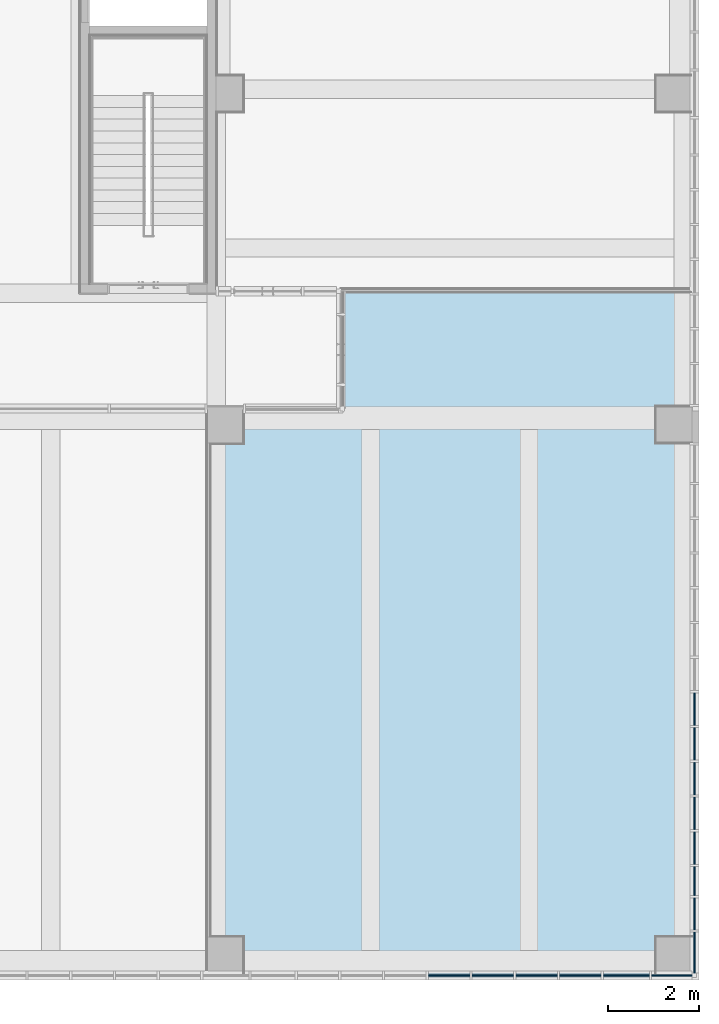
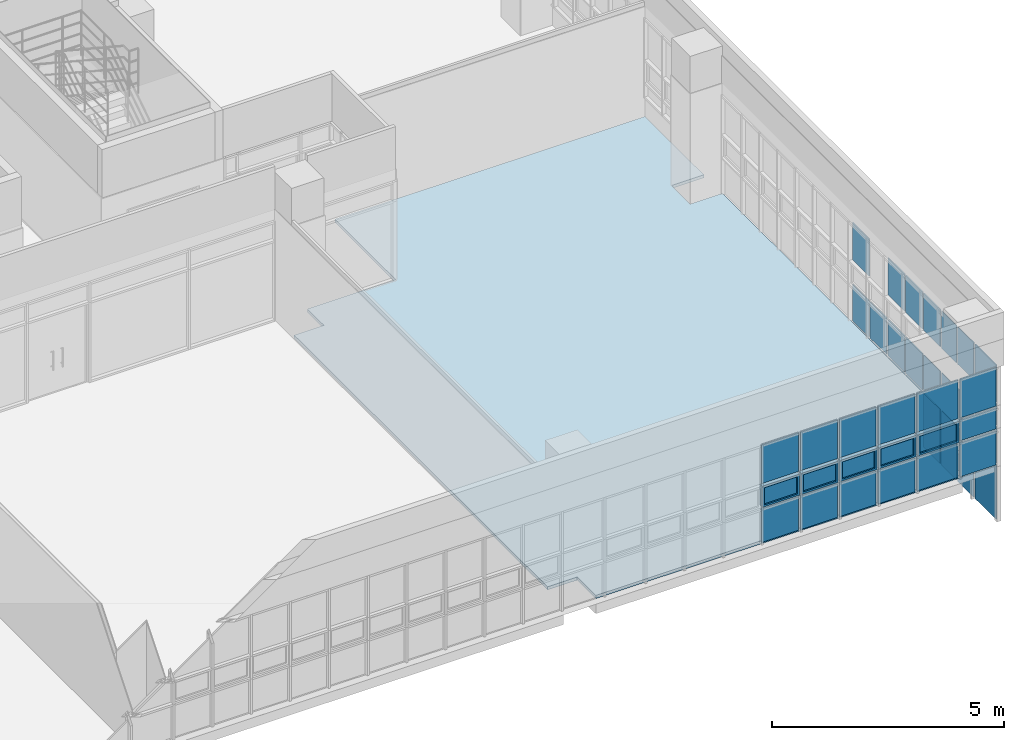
# One storey, part 31 of 81: 42 plates, 1 slab, 2 elements without a shape of their own.
"""IFC2X3 building model written with IfcOpenShell, lengths in millimetres."""

from ifc_helpers import new_model, entity, si_unit, converted_unit, derived_unit, direction, frame, origin, origin_2d_with_axis, place, context, subcontext, project, spatial, polyline, rectangle, outline, extrude, source, transform, mapped, material, material_list, layer, layer_set, layer_usage, type_object, type_shapes, element, aggregate, save


model = new_model("IFC2X3")

# Units and contexts
model_context = context("Model", 3, precision=0.01, world=origin(), true_north=direction((6.123031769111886e-17, 1.0)))
body_context = subcontext(model_context, "Body", "Model", "MODEL_VIEW")
ifc_project = project(units=[si_unit("LENGTHUNIT", "METRE", prefix="MILLI"), si_unit("AREAUNIT", "SQUARE_METRE"), si_unit("VOLUMEUNIT", "CUBIC_METRE"), converted_unit("PLANEANGLEUNIT", "DEGREE", entity("IfcRatioMeasure", 0.017453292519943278), si_unit("PLANEANGLEUNIT", "RADIAN"), dimensions=[0, 0, 0, 0, 0, 0, 0]), si_unit("MASSUNIT", "GRAM", prefix="KILO"), derived_unit("MASSDENSITYUNIT", [(si_unit("MASSUNIT", "GRAM", prefix="KILO"), 1), (si_unit("LENGTHUNIT", "METRE"), -3)]), derived_unit("MOMENTOFINERTIAUNIT", [(si_unit("LENGTHUNIT", "METRE"), 4)]), si_unit("TIMEUNIT", "SECOND"), si_unit("FREQUENCYUNIT", "HERTZ"), si_unit("THERMODYNAMICTEMPERATUREUNIT", "DEGREE_CELSIUS"), derived_unit("THERMALTRANSMITTANCEUNIT", [(si_unit("MASSUNIT", "GRAM", prefix="KILO"), 1), (si_unit("THERMODYNAMICTEMPERATUREUNIT", "KELVIN"), -1), (si_unit("TIMEUNIT", "SECOND"), -3)]), derived_unit("VOLUMETRICFLOWRATEUNIT", [(si_unit("LENGTHUNIT", "METRE"), 3), (si_unit("TIMEUNIT", "SECOND"), -1)]), derived_unit("MASSFLOWRATEUNIT", [(si_unit("MASSUNIT", "GRAM", prefix="KILO"), 1), (si_unit("TIMEUNIT", "SECOND"), -1)]), derived_unit("ROTATIONALFREQUENCYUNIT", [(si_unit("TIMEUNIT", "SECOND"), -1)]), si_unit("ELECTRICCURRENTUNIT", "AMPERE"), si_unit("ELECTRICVOLTAGEUNIT", "VOLT"), si_unit("POWERUNIT", "WATT"), si_unit("FORCEUNIT", "NEWTON", prefix="KILO"), si_unit("ILLUMINANCEUNIT", "LUX"), si_unit("LUMINOUSFLUXUNIT", "LUMEN"), si_unit("LUMINOUSINTENSITYUNIT", "CANDELA"), derived_unit("USERDEFINED", [(si_unit("MASSUNIT", "GRAM", prefix="KILO"), -1), (si_unit("LENGTHUNIT", "METRE"), -2), (si_unit("TIMEUNIT", "SECOND"), 3), (si_unit("LUMINOUSFLUXUNIT", "LUMEN"), 1)]), derived_unit("SOUNDPOWERUNIT", [(si_unit("MASSUNIT", "GRAM", prefix="KILO"), 1), (si_unit("LENGTHUNIT", "METRE"), 2), (si_unit("TIMEUNIT", "SECOND"), -3)]), derived_unit("SOUNDPRESSUREUNIT", [(si_unit("MASSUNIT", "GRAM", prefix="KILO"), 1), (si_unit("LENGTHUNIT", "METRE"), -1), (si_unit("TIMEUNIT", "SECOND"), -2)]), derived_unit("LINEARVELOCITYUNIT", [(si_unit("LENGTHUNIT", "METRE"), 1), (si_unit("TIMEUNIT", "SECOND"), -1)]), si_unit("PRESSUREUNIT", "PASCAL"), derived_unit("USERDEFINED", [(si_unit("LENGTHUNIT", "METRE"), -2), (si_unit("MASSUNIT", "GRAM", prefix="KILO"), 1), (si_unit("TIMEUNIT", "SECOND"), -2)]), derived_unit("LINEARFORCEUNIT", [(si_unit("MASSUNIT", "GRAM", prefix="KILO"), 1), (si_unit("LENGTHUNIT", "METRE"), 1), (si_unit("TIMEUNIT", "SECOND"), -2), (si_unit("LENGTHUNIT", "METRE"), -1)]), derived_unit("PLANARFORCEUNIT", [(si_unit("MASSUNIT", "GRAM", prefix="KILO"), 1), (si_unit("LENGTHUNIT", "METRE"), 1), (si_unit("TIMEUNIT", "SECOND"), -2), (si_unit("LENGTHUNIT", "METRE"), -2)])], contexts=[model_context])

# Site, building, storey
site_placement = place(None, frame((-14167.972527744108, -657.2125860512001, 0.0)))
site = spatial("IfcSite", under=ifc_project, at=site_placement, Name="Default", CompositionType="ELEMENT")
building_placement = place(site_placement, origin())
building = spatial("IfcBuilding", under=site, at=building_placement, Name="Sample Building", CompositionType="ELEMENT")
storey_placement = place(building_placement, frame((0.0, 0.0, 13400.0)))
storey = spatial("IfcBuildingStorey", under=building, at=storey_placement, Name="지상 4층", CompositionType="ELEMENT", Elevation=13400.00000000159)

# Curtain wall, plates
curtain_wall_type = type_object("IfcCurtainWallType", Name="커튼월:CW112-스테인리스 스틸 커튼월", PredefinedType="NOTDEFINED")
curtain_wall_1_placement = place(storey_placement, frame((0.0, 0.0, -13400.0)))
curtain_wall_1 = element("IfcCurtainWall", 1, at=curtain_wall_1_placement, inside=storey, type_object=curtain_wall_type, Name="커튼월:CW112-스테인리스 스틸 커튼월", ObjectType="커튼월:CW112-스테인리스 스틸 커튼월")
ifc_material_1 = material(Name="KBIMS-유리")
ifc_material_2 = material(Name="KBIMS-알루미늄")
ifc_material_list_1 = material_list([ifc_material_1, ifc_material_2])
ifc_material_list_2 = material_list([ifc_material_1, ifc_material_2])
plate_type_1 = type_object("IfcPlateType", Name="CW410-프로젝트 창:CW410-프로젝트 창 (하부개폐)", PredefinedType="CURTAIN_PANEL", material=ifc_material_list_2)
shared_shape_1 = source(origin(), body_context, "Body", "SweptSolid", [
    extrude(rectangle(XDim=815.0000000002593, YDim=23.999999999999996, at=origin_2d_with_axis()), frame((0.0, -0.04999999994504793, 50.0), z_axis=(0.0, 0.0, 1.0), x_axis=(-1.0, 0.0, 0.0)), (0.0, 0.0, 1.0), 450.0000000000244),
    extrude(outline(polyline([(-457.4999999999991, -275.0), (457.4999999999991, -275.0), (457.4999999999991, 275.0), (-457.4999999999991, 275.0), (-457.4999999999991, -275.0)]), holes=[polyline([(-407.50000000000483, -225.0), (-407.5000000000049, 225.0), (407.50000000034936, 225.0), (407.50000000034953, -225.0), (-407.50000000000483, -225.0)])]), frame((0.0, -50.04999999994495, 275.0), z_axis=(0.0, 1.0, 0.0), x_axis=(1.0, 0.0, 0.0)), (0.0, 0.0, 1.0), 99.99999999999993),
])
type_shapes(plate_type_1, [shared_shape_1])
plate_1_placement = place(curtain_wall_1_placement, frame((46107.65607007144, 507.2122951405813, 14425.0)))
plate_1 = element("IfcPlate", 2, at=plate_1_placement, type_object=plate_type_1, material=ifc_material_list_1, Name="CW410-프로젝트 창:CW410-프로젝트 창 (하부개폐)", ObjectType="CW410-프로젝트 창:CW410-프로젝트 창 (하부개폐)", context=body_context, shape_type="MappedRepresentation", body=[
    mapped(shared_shape_1, transform((0.0, 0.0, 0.0), scale=1.0)),
])
ifc_material_list_3 = material_list([ifc_material_1, ifc_material_2])
plate_2_placement = place(curtain_wall_1_placement, frame((47072.65607007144, 507.2122951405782, 14425.0)))
plate_2 = element("IfcPlate", 3, at=plate_2_placement, type_object=plate_type_1, material=ifc_material_list_3, Name="CW410-프로젝트 창:CW410-프로젝트 창 (하부개폐)", ObjectType="CW410-프로젝트 창:CW410-프로젝트 창 (하부개폐)", context=body_context, shape_type="MappedRepresentation", body=[
    mapped(shared_shape_1, transform((0.0, 0.0, 0.0), scale=1.0)),
])
ifc_material_list_4 = material_list([ifc_material_1, ifc_material_2])
plate_3_placement = place(curtain_wall_1_placement, frame((48037.65607007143, 507.21229514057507, 14425.0)))
plate_3 = element("IfcPlate", 4, at=plate_3_placement, type_object=plate_type_1, material=ifc_material_list_4, Name="CW410-프로젝트 창:CW410-프로젝트 창 (하부개폐)", ObjectType="CW410-프로젝트 창:CW410-프로젝트 창 (하부개폐)", context=body_context, shape_type="MappedRepresentation", body=[
    mapped(shared_shape_1, transform((0.0, 0.0, 0.0), scale=1.0)),
])
ifc_material_list_5 = material_list([ifc_material_1, ifc_material_2])
plate_4_placement = place(curtain_wall_1_placement, frame((49002.65607007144, 507.21229514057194, 14425.0)))
plate_4 = element("IfcPlate", 5, at=plate_4_placement, type_object=plate_type_1, material=ifc_material_list_5, Name="CW410-프로젝트 창:CW410-프로젝트 창 (하부개폐)", ObjectType="CW410-프로젝트 창:CW410-프로젝트 창 (하부개폐)", context=body_context, shape_type="MappedRepresentation", body=[
    mapped(shared_shape_1, transform((0.0, 0.0, 0.0), scale=1.0)),
])
ifc_material_list_6 = material_list([ifc_material_1, ifc_material_2])
ifc_material_list_7 = material_list([ifc_material_1, ifc_material_2])
plate_type_2 = type_object("IfcPlateType", Name="CW410-프로젝트 창:CW410-프로젝트 창 (하부개폐)", PredefinedType="CURTAIN_PANEL", material=ifc_material_list_7)
shared_shape_2 = source(origin(), body_context, "Body", "SweptSolid", [
    extrude(rectangle(XDim=915.0000000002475, YDim=23.999999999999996, at=origin_2d_with_axis()), frame((0.0, -0.04999999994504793, 50.0), z_axis=(0.0, 0.0, 1.0), x_axis=(-1.0, 0.0, 0.0)), (0.0, 0.0, 1.0), 450.0000000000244),
    extrude(outline(polyline([(-507.4999999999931, -275.0), (507.4999999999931, -275.0), (507.4999999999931, 275.0), (-507.4999999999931, 275.0), (-507.4999999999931, -275.0)]), holes=[polyline([(-457.49999999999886, -225.0), (-457.4999999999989, 225.0), (457.50000000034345, 225.0), (457.50000000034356, -225.0), (-457.49999999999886, -225.0)])]), frame((0.0, -50.04999999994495, 275.0), z_axis=(0.0, 1.0, 0.0), x_axis=(1.0, 0.0, 0.0)), (0.0, 0.0, 1.0), 99.99999999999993),
])
type_shapes(plate_type_2, [shared_shape_2])
plate_5_placement = place(curtain_wall_1_placement, frame((50017.65607007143, 507.21229514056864, 14425.0)))
plate_5 = element("IfcPlate", 6, at=plate_5_placement, type_object=plate_type_2, material=ifc_material_list_6, Name="CW410-프로젝트 창:CW410-프로젝트 창 (하부개폐)", ObjectType="CW410-프로젝트 창:CW410-프로젝트 창 (하부개폐)", context=body_context, shape_type="MappedRepresentation", body=[
    mapped(shared_shape_2, transform((0.0, 0.0, 0.0), scale=1.0)),
])
ifc_material_3 = material(Name="KBIMS-로이유리(코팅)")
plate_type_3 = type_object("IfcPlateType", Name="CW300-THK24.Low-e coating glass:CW300-THK24.Low-e coating glass", PredefinedType="CURTAIN_PANEL", material=ifc_material_3)
shared_shape_3 = source(origin(), body_context, "Body", "SweptSolid", [
    extrude(rectangle(XDim=892.8077588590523, YDim=24.000000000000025, at=origin_2d_with_axis()), frame((0.0, 0.0, 0.0), z_axis=(0.0, 0.0, 1.0), x_axis=(-1.0, 0.0, 0.0)), (0.0, 0.0, 1.0), 549.9999999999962),
])
type_shapes(plate_type_3, [shared_shape_3])
plate_6_placement = place(curtain_wall_1_placement, frame((51021.55994950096, 507.2122951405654, 14425.0)))
plate_6 = element("IfcPlate", 7, at=plate_6_placement, type_object=plate_type_3, material=ifc_material_3, Name="CW300-THK24.Low-e coating glass:CW300-THK24.Low-e coating glass", ObjectType="CW300-THK24.Low-e coating glass:CW300-THK24.Low-e coating glass", context=body_context, shape_type="MappedRepresentation", body=[
    mapped(shared_shape_3, transform((0.0, 0.0, 0.0), scale=1.0)),
])
plate_type_4 = type_object("IfcPlateType", Name="CW300-THK24.Low-e coating glass:CW300-THK24.Low-e coating glass", PredefinedType="CURTAIN_PANEL", material=ifc_material_3)
shared_shape_4 = source(origin(), body_context, "Body", "SweptSolid", [
    extrude(rectangle(XDim=914.9999999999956, YDim=24.000000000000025, at=origin_2d_with_axis()), frame((0.0, 0.0, 0.0), z_axis=(0.0, 0.0, 1.0), x_axis=(-1.0, 0.0, 0.0)), (0.0, 0.0, 1.0), 894.9999999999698),
])
type_shapes(plate_type_4, [shared_shape_4])
plate_7_placement = place(curtain_wall_1_placement, frame((46107.65607007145, 507.2122951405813, 13480.0)))
plate_7 = element("IfcPlate", 8, at=plate_7_placement, type_object=plate_type_4, material=ifc_material_3, Name="CW300-THK24.Low-e coating glass:CW300-THK24.Low-e coating glass", ObjectType="CW300-THK24.Low-e coating glass:CW300-THK24.Low-e coating glass", context=body_context, shape_type="MappedRepresentation", body=[
    mapped(shared_shape_4, transform((0.0, 0.0, 0.0), scale=1.0)),
])
plate_8_placement = place(curtain_wall_1_placement, frame((47072.65607007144, 507.2122951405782, 13480.0)))
plate_8 = element("IfcPlate", 9, at=plate_8_placement, type_object=plate_type_4, material=ifc_material_3, Name="CW300-THK24.Low-e coating glass:CW300-THK24.Low-e coating glass", ObjectType="CW300-THK24.Low-e coating glass:CW300-THK24.Low-e coating glass", context=body_context, shape_type="MappedRepresentation", body=[
    mapped(shared_shape_4, transform((0.0, 0.0, 0.0), scale=1.0)),
])
plate_9_placement = place(curtain_wall_1_placement, frame((48037.65607007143, 507.21229514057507, 13480.0)))
plate_9 = element("IfcPlate", 10, at=plate_9_placement, type_object=plate_type_4, material=ifc_material_3, Name="CW300-THK24.Low-e coating glass:CW300-THK24.Low-e coating glass", ObjectType="CW300-THK24.Low-e coating glass:CW300-THK24.Low-e coating glass", context=body_context, shape_type="MappedRepresentation", body=[
    mapped(shared_shape_4, transform((0.0, 0.0, 0.0), scale=1.0)),
])
plate_10_placement = place(curtain_wall_1_placement, frame((49002.65607007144, 507.21229514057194, 13480.0)))
plate_10 = element("IfcPlate", 11, at=plate_10_placement, type_object=plate_type_4, material=ifc_material_3, Name="CW300-THK24.Low-e coating glass:CW300-THK24.Low-e coating glass", ObjectType="CW300-THK24.Low-e coating glass:CW300-THK24.Low-e coating glass", context=body_context, shape_type="MappedRepresentation", body=[
    mapped(shared_shape_4, transform((0.0, 0.0, 0.0), scale=1.0)),
])
plate_type_5 = type_object("IfcPlateType", Name="CW300-THK24.Low-e coating glass:CW300-THK24.Low-e coating glass", PredefinedType="CURTAIN_PANEL", material=ifc_material_3)
shared_shape_5 = source(origin(), body_context, "Body", "SweptSolid", [
    extrude(rectangle(XDim=1014.9999999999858, YDim=24.000000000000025, at=origin_2d_with_axis()), frame((0.0, 0.0, 0.0), z_axis=(0.0, 0.0, 1.0), x_axis=(-1.0, 0.0, 0.0)), (0.0, 0.0, 1.0), 894.9999999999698),
])
type_shapes(plate_type_5, [shared_shape_5])
plate_11_placement = place(curtain_wall_1_placement, frame((50017.65607007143, 507.21229514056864, 13480.0)))
plate_11 = element("IfcPlate", 12, at=plate_11_placement, type_object=plate_type_5, material=ifc_material_3, Name="CW300-THK24.Low-e coating glass:CW300-THK24.Low-e coating glass", ObjectType="CW300-THK24.Low-e coating glass:CW300-THK24.Low-e coating glass", context=body_context, shape_type="MappedRepresentation", body=[
    mapped(shared_shape_5, transform((0.0, 0.0, 0.0), scale=1.0)),
])
plate_type_6 = type_object("IfcPlateType", Name="CW300-THK24.Low-e coating glass:CW300-THK24.Low-e coating glass", PredefinedType="CURTAIN_PANEL", material=ifc_material_3)
shared_shape_6 = source(origin(), body_context, "Body", "SweptSolid", [
    extrude(rectangle(XDim=892.8077588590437, YDim=24.000000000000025, at=origin_2d_with_axis()), frame((0.0, 0.0, 0.0), z_axis=(0.0, 0.0, 1.0), x_axis=(-1.0, 0.0, 0.0)), (0.0, 0.0, 1.0), 894.9999999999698),
])
type_shapes(plate_type_6, [shared_shape_6])
plate_12_placement = place(curtain_wall_1_placement, frame((51021.55994950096, 507.2122951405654, 13480.0)))
plate_12 = element("IfcPlate", 13, at=plate_12_placement, type_object=plate_type_6, material=ifc_material_3, Name="CW300-THK24.Low-e coating glass:CW300-THK24.Low-e coating glass", ObjectType="CW300-THK24.Low-e coating glass:CW300-THK24.Low-e coating glass", context=body_context, shape_type="MappedRepresentation", body=[
    mapped(shared_shape_6, transform((0.0, 0.0, 0.0), scale=1.0)),
])
plate_type_7 = type_object("IfcPlateType", Name="CW300-THK24.Low-e coating glass:CW300-THK24.Low-e coating glass", PredefinedType="CURTAIN_PANEL", material=ifc_material_3)
shared_shape_7 = source(origin(), body_context, "Body", "SweptSolid", [
    extrude(rectangle(XDim=914.9999999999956, YDim=24.000000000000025, at=origin_2d_with_axis()), frame((0.0, 0.0, 0.0), z_axis=(0.0, 0.0, 1.0), x_axis=(-1.0, 0.0, 0.0)), (0.0, 0.0, 1.0), 1025.0000000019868),
])
type_shapes(plate_type_7, [shared_shape_7])
plate_13_placement = place(curtain_wall_1_placement, frame((46107.65607007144, 507.2122951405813, 15025.0)))
plate_13 = element("IfcPlate", 14, at=plate_13_placement, type_object=plate_type_7, material=ifc_material_3, Name="CW300-THK24.Low-e coating glass:CW300-THK24.Low-e coating glass", ObjectType="CW300-THK24.Low-e coating glass:CW300-THK24.Low-e coating glass", context=body_context, shape_type="MappedRepresentation", body=[
    mapped(shared_shape_7, transform((0.0, 0.0, 0.0), scale=1.0)),
])
plate_14_placement = place(curtain_wall_1_placement, frame((47072.65607007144, 507.2122951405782, 15025.0)))
plate_14 = element("IfcPlate", 15, at=plate_14_placement, type_object=plate_type_7, material=ifc_material_3, Name="CW300-THK24.Low-e coating glass:CW300-THK24.Low-e coating glass", ObjectType="CW300-THK24.Low-e coating glass:CW300-THK24.Low-e coating glass", context=body_context, shape_type="MappedRepresentation", body=[
    mapped(shared_shape_7, transform((0.0, 0.0, 0.0), scale=1.0)),
])
plate_15_placement = place(curtain_wall_1_placement, frame((48037.65607007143, 507.21229514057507, 15025.0)))
plate_15 = element("IfcPlate", 16, at=plate_15_placement, type_object=plate_type_7, material=ifc_material_3, Name="CW300-THK24.Low-e coating glass:CW300-THK24.Low-e coating glass", ObjectType="CW300-THK24.Low-e coating glass:CW300-THK24.Low-e coating glass", context=body_context, shape_type="MappedRepresentation", body=[
    mapped(shared_shape_7, transform((0.0, 0.0, 0.0), scale=1.0)),
])
plate_16_placement = place(curtain_wall_1_placement, frame((49002.65607007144, 507.21229514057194, 15025.0)))
plate_16 = element("IfcPlate", 17, at=plate_16_placement, type_object=plate_type_7, material=ifc_material_3, Name="CW300-THK24.Low-e coating glass:CW300-THK24.Low-e coating glass", ObjectType="CW300-THK24.Low-e coating glass:CW300-THK24.Low-e coating glass", context=body_context, shape_type="MappedRepresentation", body=[
    mapped(shared_shape_7, transform((0.0, 0.0, 0.0), scale=1.0)),
])
plate_type_8 = type_object("IfcPlateType", Name="CW300-THK24.Low-e coating glass:CW300-THK24.Low-e coating glass", PredefinedType="CURTAIN_PANEL", material=ifc_material_3)
shared_shape_8 = source(origin(), body_context, "Body", "SweptSolid", [
    extrude(rectangle(XDim=1014.9999999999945, YDim=24.000000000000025, at=origin_2d_with_axis()), frame((0.0, 0.0, 0.0), z_axis=(0.0, 0.0, 1.0), x_axis=(-1.0, 0.0, 0.0)), (0.0, 0.0, 1.0), 1025.0000000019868),
])
type_shapes(plate_type_8, [shared_shape_8])
plate_17_placement = place(curtain_wall_1_placement, frame((50017.65607007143, 507.21229514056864, 15025.0)))
plate_17 = element("IfcPlate", 18, at=plate_17_placement, type_object=plate_type_8, material=ifc_material_3, Name="CW300-THK24.Low-e coating glass:CW300-THK24.Low-e coating glass", ObjectType="CW300-THK24.Low-e coating glass:CW300-THK24.Low-e coating glass", context=body_context, shape_type="MappedRepresentation", body=[
    mapped(shared_shape_8, transform((0.0, 0.0, 0.0), scale=1.0)),
])
plate_type_9 = type_object("IfcPlateType", Name="CW300-THK24.Low-e coating glass:CW300-THK24.Low-e coating glass", PredefinedType="CURTAIN_PANEL", material=ifc_material_3)
shared_shape_9 = source(origin(), body_context, "Body", "SweptSolid", [
    extrude(rectangle(XDim=892.8077588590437, YDim=24.000000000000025, at=origin_2d_with_axis()), frame((0.0, 0.0, 0.0), z_axis=(0.0, 0.0, 1.0), x_axis=(-1.0, 0.0, 0.0)), (0.0, 0.0, 1.0), 1025.0000000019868),
])
type_shapes(plate_type_9, [shared_shape_9])
plate_18_placement = place(curtain_wall_1_placement, frame((51021.55994950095, 507.2122951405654, 15025.0)))
plate_18 = element("IfcPlate", 19, at=plate_18_placement, type_object=plate_type_9, material=ifc_material_3, Name="CW300-THK24.Low-e coating glass:CW300-THK24.Low-e coating glass", ObjectType="CW300-THK24.Low-e coating glass:CW300-THK24.Low-e coating glass", context=body_context, shape_type="MappedRepresentation", body=[
    mapped(shared_shape_9, transform((0.0, 0.0, 0.0), scale=1.0)),
])
aggregate(curtain_wall_1, [plate_7, plate_8, plate_9, plate_10, plate_11, plate_12, plate_1, plate_2, plate_3, plate_4, plate_5, plate_6, plate_13, plate_14, plate_15, plate_16, plate_17, plate_18])

curtain_wall_2_placement = place(storey_placement, frame((0.0, 0.0, -13400.0)))
curtain_wall_2 = element("IfcCurtainWall", 20, at=curtain_wall_2_placement, inside=storey, type_object=curtain_wall_type, Name="커튼월:CW112-스테인리스 스틸 커튼월", ObjectType="커튼월:CW112-스테인리스 스틸 커튼월")
plate_type_10 = type_object("IfcPlateType", Name="CW300-THK24.Low-e coating glass:CW300-THK24.Low-e coating glass", PredefinedType="CURTAIN_PANEL", material=ifc_material_3)
shared_shape_10 = source(origin(), body_context, "Body", "SweptSolid", [
    extrude(rectangle(XDim=24.000000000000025, YDim=716.0000000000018, at=origin_2d_with_axis()), frame((0.0, 0.0, 0.0), z_axis=(0.0, 0.0, 1.0), x_axis=(0.0, 1.0, 0.0)), (0.0, 0.0, 1.0), 1424.9999999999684),
])
type_shapes(plate_type_10, [shared_shape_10])
plate_19_placement = place(curtain_wall_2_placement, frame((51517.96382893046, 6380.783036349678, 12000.0), z_axis=(0.0, 0.0, 1.0), x_axis=(0.0, -1.0, 0.0)))
plate_19 = element("IfcPlate", 21, at=plate_19_placement, type_object=plate_type_10, material=ifc_material_3, Name="CW300-THK24.Low-e coating glass:CW300-THK24.Low-e coating glass", ObjectType="CW300-THK24.Low-e coating glass:CW300-THK24.Low-e coating glass", context=body_context, shape_type="MappedRepresentation", body=[
    mapped(shared_shape_10, transform((0.0, 0.0, 0.0), scale=1.0)),
])
plate_20_placement = place(curtain_wall_2_placement, frame((51517.96382893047, 5614.783036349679, 12000.0), z_axis=(0.0, 0.0, 1.0), x_axis=(0.0, -1.0, 0.0)))
plate_20 = element("IfcPlate", 22, at=plate_20_placement, type_object=plate_type_10, material=ifc_material_3, Name="CW300-THK24.Low-e coating glass:CW300-THK24.Low-e coating glass", ObjectType="CW300-THK24.Low-e coating glass:CW300-THK24.Low-e coating glass", context=body_context, shape_type="MappedRepresentation", body=[
    mapped(shared_shape_10, transform((0.0, 0.0, 0.0), scale=1.0)),
])
plate_21_placement = place(curtain_wall_2_placement, frame((51517.96382893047, 4848.78303634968, 12000.0), z_axis=(0.0, 0.0, 1.0), x_axis=(0.0, -1.0, 0.0)))
plate_21 = element("IfcPlate", 23, at=plate_21_placement, type_object=plate_type_10, material=ifc_material_3, Name="CW300-THK24.Low-e coating glass:CW300-THK24.Low-e coating glass", ObjectType="CW300-THK24.Low-e coating glass:CW300-THK24.Low-e coating glass", context=body_context, shape_type="MappedRepresentation", body=[
    mapped(shared_shape_10, transform((0.0, 0.0, 0.0), scale=1.0)),
])
plate_22_placement = place(curtain_wall_2_placement, frame((51517.96382893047, 4082.78303634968, 12000.0), z_axis=(0.0, 0.0, 1.0), x_axis=(0.0, -1.0, 0.0)))
plate_22 = element("IfcPlate", 24, at=plate_22_placement, type_object=plate_type_10, material=ifc_material_3, Name="CW300-THK24.Low-e coating glass:CW300-THK24.Low-e coating glass", ObjectType="CW300-THK24.Low-e coating glass:CW300-THK24.Low-e coating glass", context=body_context, shape_type="MappedRepresentation", body=[
    mapped(shared_shape_10, transform((0.0, 0.0, 0.0), scale=1.0)),
])
plate_23_placement = place(curtain_wall_2_placement, frame((51517.96382893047, 3316.783036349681, 12000.0), z_axis=(0.0, 0.0, 1.0), x_axis=(0.0, -1.0, 0.0)))
plate_23 = element("IfcPlate", 25, at=plate_23_placement, type_object=plate_type_10, material=ifc_material_3, Name="CW300-THK24.Low-e coating glass:CW300-THK24.Low-e coating glass", ObjectType="CW300-THK24.Low-e coating glass:CW300-THK24.Low-e coating glass", context=body_context, shape_type="MappedRepresentation", body=[
    mapped(shared_shape_10, transform((0.0, 0.0, 0.0), scale=1.0)),
])
plate_type_11 = type_object("IfcPlateType", Name="CW300-THK24.Low-e coating glass:CW300-THK24.Low-e coating glass", PredefinedType="CURTAIN_PANEL", material=ifc_material_3)
shared_shape_11 = source(origin(), body_context, "Body", "SweptSolid", [
    extrude(rectangle(XDim=24.000000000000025, YDim=642.0000000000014, at=origin_2d_with_axis()), frame((0.0, 0.0, 0.0), z_axis=(0.0, 0.0, 1.0), x_axis=(0.0, 1.0, 0.0)), (0.0, 0.0, 1.0), 1424.9999999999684),
])
type_shapes(plate_type_11, [shared_shape_11])
plate_24_placement = place(curtain_wall_2_placement, frame((51517.96382893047, 2587.783036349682, 12000.0), z_axis=(0.0, 0.0, 1.0), x_axis=(0.0, -1.0, 0.0)))
plate_24 = element("IfcPlate", 26, at=plate_24_placement, type_object=plate_type_11, material=ifc_material_3, Name="CW300-THK24.Low-e coating glass:CW300-THK24.Low-e coating glass", ObjectType="CW300-THK24.Low-e coating glass:CW300-THK24.Low-e coating glass", context=body_context, shape_type="MappedRepresentation", body=[
    mapped(shared_shape_11, transform((0.0, 0.0, 0.0), scale=1.0)),
])
plate_type_12 = type_object("IfcPlateType", Name="CW300-THK24.Low-e coating glass:CW300-THK24.Low-e coating glass", PredefinedType="CURTAIN_PANEL", material=ifc_material_3)
shared_shape_12 = source(origin(), body_context, "Body", "SweptSolid", [
    extrude(rectangle(XDim=24.000000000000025, YDim=702.0000000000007, at=origin_2d_with_axis()), frame((0.0, 0.0, 0.0), z_axis=(0.0, 0.0, 1.0), x_axis=(0.0, 1.0, 0.0)), (0.0, 0.0, 1.0), 1424.9999999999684),
])
type_shapes(plate_type_12, [shared_shape_12])
plate_25_placement = place(curtain_wall_2_placement, frame((51517.96382893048, 1865.7830363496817, 12000.0), z_axis=(0.0, 0.0, 1.0), x_axis=(0.0, -1.0, 0.0)))
plate_25 = element("IfcPlate", 27, at=plate_25_placement, type_object=plate_type_12, material=ifc_material_3, Name="CW300-THK24.Low-e coating glass:CW300-THK24.Low-e coating glass", ObjectType="CW300-THK24.Low-e coating glass:CW300-THK24.Low-e coating glass", context=body_context, shape_type="MappedRepresentation", body=[
    mapped(shared_shape_12, transform((0.0, 0.0, 0.0), scale=1.0)),
])
plate_type_13 = type_object("IfcPlateType", Name="CW300-THK24.Low-e coating glass:CW300-THK24.Low-e coating glass", PredefinedType="CURTAIN_PANEL", material=ifc_material_3)
shared_shape_13 = source(origin(), body_context, "Body", "SweptSolid", [
    extrude(rectangle(XDim=24.000000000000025, YDim=907.6054119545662, at=origin_2d_with_axis()), frame((0.0, 0.0, 0.0), z_axis=(0.0, 0.0, 1.0), x_axis=(0.0, 1.0, 0.0)), (0.0, 0.0, 1.0), 1424.9999999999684),
])
type_shapes(plate_type_13, [shared_shape_13])
plate_26_placement = place(curtain_wall_2_placement, frame((51517.96382893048, 1010.9803303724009, 12000.0), z_axis=(0.0, 0.0, 1.0), x_axis=(0.0, -1.0, 0.0)))
plate_26 = element("IfcPlate", 28, at=plate_26_placement, type_object=plate_type_13, material=ifc_material_3, Name="CW300-THK24.Low-e coating glass:CW300-THK24.Low-e coating glass", ObjectType="CW300-THK24.Low-e coating glass:CW300-THK24.Low-e coating glass", context=body_context, shape_type="MappedRepresentation", body=[
    mapped(shared_shape_13, transform((0.0, 0.0, 0.0), scale=1.0)),
])
plate_type_14 = type_object("IfcPlateType", Name="CW300-THK24.Low-e coating glass:CW300-THK24.Low-e coating glass", PredefinedType="CURTAIN_PANEL", material=ifc_material_3)
shared_shape_14 = source(origin(), body_context, "Body", "SweptSolid", [
    extrude(rectangle(XDim=24.000000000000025, YDim=716.0000000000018, at=origin_2d_with_axis()), frame((0.0, 0.0, 0.0), z_axis=(0.0, 0.0, 1.0), x_axis=(0.0, 1.0, 0.0)), (0.0, 0.0, 1.0), 949.9999999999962),
])
type_shapes(plate_type_14, [shared_shape_14])
plate_27_placement = place(curtain_wall_2_placement, frame((51517.96382893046, 6380.783036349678, 13475.0), z_axis=(0.0, 0.0, 1.0), x_axis=(0.0, -1.0, 0.0)))
plate_27 = element("IfcPlate", 29, at=plate_27_placement, type_object=plate_type_14, material=ifc_material_3, Name="CW300-THK24.Low-e coating glass:CW300-THK24.Low-e coating glass", ObjectType="CW300-THK24.Low-e coating glass:CW300-THK24.Low-e coating glass", context=body_context, shape_type="MappedRepresentation", body=[
    mapped(shared_shape_14, transform((0.0, 0.0, 0.0), scale=1.0)),
])
plate_28_placement = place(curtain_wall_2_placement, frame((51517.96382893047, 5614.783036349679, 13475.0), z_axis=(0.0, 0.0, 1.0), x_axis=(0.0, -1.0, 0.0)))
plate_28 = element("IfcPlate", 30, at=plate_28_placement, type_object=plate_type_14, material=ifc_material_3, Name="CW300-THK24.Low-e coating glass:CW300-THK24.Low-e coating glass", ObjectType="CW300-THK24.Low-e coating glass:CW300-THK24.Low-e coating glass", context=body_context, shape_type="MappedRepresentation", body=[
    mapped(shared_shape_14, transform((0.0, 0.0, 0.0), scale=1.0)),
])
plate_29_placement = place(curtain_wall_2_placement, frame((51517.96382893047, 4848.78303634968, 13475.0), z_axis=(0.0, 0.0, 1.0), x_axis=(0.0, -1.0, 0.0)))
plate_29 = element("IfcPlate", 31, at=plate_29_placement, type_object=plate_type_14, material=ifc_material_3, Name="CW300-THK24.Low-e coating glass:CW300-THK24.Low-e coating glass", ObjectType="CW300-THK24.Low-e coating glass:CW300-THK24.Low-e coating glass", context=body_context, shape_type="MappedRepresentation", body=[
    mapped(shared_shape_14, transform((0.0, 0.0, 0.0), scale=1.0)),
])
plate_30_placement = place(curtain_wall_2_placement, frame((51517.96382893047, 4082.78303634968, 13475.0), z_axis=(0.0, 0.0, 1.0), x_axis=(0.0, -1.0, 0.0)))
plate_30 = element("IfcPlate", 32, at=plate_30_placement, type_object=plate_type_14, material=ifc_material_3, Name="CW300-THK24.Low-e coating glass:CW300-THK24.Low-e coating glass", ObjectType="CW300-THK24.Low-e coating glass:CW300-THK24.Low-e coating glass", context=body_context, shape_type="MappedRepresentation", body=[
    mapped(shared_shape_14, transform((0.0, 0.0, 0.0), scale=1.0)),
])
plate_31_placement = place(curtain_wall_2_placement, frame((51517.96382893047, 3316.783036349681, 13475.0), z_axis=(0.0, 0.0, 1.0), x_axis=(0.0, -1.0, 0.0)))
plate_31 = element("IfcPlate", 33, at=plate_31_placement, type_object=plate_type_14, material=ifc_material_3, Name="CW300-THK24.Low-e coating glass:CW300-THK24.Low-e coating glass", ObjectType="CW300-THK24.Low-e coating glass:CW300-THK24.Low-e coating glass", context=body_context, shape_type="MappedRepresentation", body=[
    mapped(shared_shape_14, transform((0.0, 0.0, 0.0), scale=1.0)),
])
plate_type_15 = type_object("IfcPlateType", Name="CW300-THK24.Low-e coating glass:CW300-THK24.Low-e coating glass", PredefinedType="CURTAIN_PANEL", material=ifc_material_3)
shared_shape_15 = source(origin(), body_context, "Body", "SweptSolid", [
    extrude(rectangle(XDim=24.000000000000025, YDim=642.0000000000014, at=origin_2d_with_axis()), frame((0.0, 0.0, 0.0), z_axis=(0.0, 0.0, 1.0), x_axis=(0.0, 1.0, 0.0)), (0.0, 0.0, 1.0), 949.9999999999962),
])
type_shapes(plate_type_15, [shared_shape_15])
plate_32_placement = place(curtain_wall_2_placement, frame((51517.96382893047, 2587.783036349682, 13475.0), z_axis=(0.0, 0.0, 1.0), x_axis=(0.0, -1.0, 0.0)))
plate_32 = element("IfcPlate", 34, at=plate_32_placement, type_object=plate_type_15, material=ifc_material_3, Name="CW300-THK24.Low-e coating glass:CW300-THK24.Low-e coating glass", ObjectType="CW300-THK24.Low-e coating glass:CW300-THK24.Low-e coating glass", context=body_context, shape_type="MappedRepresentation", body=[
    mapped(shared_shape_15, transform((0.0, 0.0, 0.0), scale=1.0)),
])
plate_type_16 = type_object("IfcPlateType", Name="CW300-THK24.Low-e coating glass:CW300-THK24.Low-e coating glass", PredefinedType="CURTAIN_PANEL", material=ifc_material_3)
shared_shape_16 = source(origin(), body_context, "Body", "SweptSolid", [
    extrude(rectangle(XDim=24.000000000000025, YDim=702.0000000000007, at=origin_2d_with_axis()), frame((0.0, 0.0, 0.0), z_axis=(0.0, 0.0, 1.0), x_axis=(0.0, 1.0, 0.0)), (0.0, 0.0, 1.0), 949.9999999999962),
])
type_shapes(plate_type_16, [shared_shape_16])
plate_33_placement = place(curtain_wall_2_placement, frame((51517.96382893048, 1865.7830363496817, 13475.0), z_axis=(0.0, 0.0, 1.0), x_axis=(0.0, -1.0, 0.0)))
plate_33 = element("IfcPlate", 35, at=plate_33_placement, type_object=plate_type_16, material=ifc_material_3, Name="CW300-THK24.Low-e coating glass:CW300-THK24.Low-e coating glass", ObjectType="CW300-THK24.Low-e coating glass:CW300-THK24.Low-e coating glass", context=body_context, shape_type="MappedRepresentation", body=[
    mapped(shared_shape_16, transform((0.0, 0.0, 0.0), scale=1.0)),
])
plate_type_17 = type_object("IfcPlateType", Name="CW300-THK24.Low-e coating glass:CW300-THK24.Low-e coating glass", PredefinedType="CURTAIN_PANEL", material=ifc_material_3)
shared_shape_17 = source(origin(), body_context, "Body", "SweptSolid", [
    extrude(rectangle(XDim=24.000000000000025, YDim=907.6054119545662, at=origin_2d_with_axis()), frame((0.0, 0.0, 0.0), z_axis=(0.0, 0.0, 1.0), x_axis=(0.0, 1.0, 0.0)), (0.0, 0.0, 1.0), 949.9999999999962),
])
type_shapes(plate_type_17, [shared_shape_17])
plate_34_placement = place(curtain_wall_2_placement, frame((51517.96382893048, 1010.9803303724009, 13475.0), z_axis=(0.0, 0.0, 1.0), x_axis=(0.0, -1.0, 0.0)))
plate_34 = element("IfcPlate", 36, at=plate_34_placement, type_object=plate_type_17, material=ifc_material_3, Name="CW300-THK24.Low-e coating glass:CW300-THK24.Low-e coating glass", ObjectType="CW300-THK24.Low-e coating glass:CW300-THK24.Low-e coating glass", context=body_context, shape_type="MappedRepresentation", body=[
    mapped(shared_shape_17, transform((0.0, 0.0, 0.0), scale=1.0)),
])
plate_type_18 = type_object("IfcPlateType", Name="CW300-THK24.Low-e coating glass:CW300-THK24.Low-e coating glass", PredefinedType="CURTAIN_PANEL", material=ifc_material_3)
shared_shape_18 = source(origin(), body_context, "Body", "SweptSolid", [
    extrude(rectangle(XDim=24.000000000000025, YDim=907.6054119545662, at=origin_2d_with_axis()), frame((0.0, 0.0, 0.0), z_axis=(0.0, 0.0, 1.0), x_axis=(0.0, 1.0, 0.0)), (0.0, 0.0, 1.0), 549.9999999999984),
])
type_shapes(plate_type_18, [shared_shape_18])
plate_35_placement = place(curtain_wall_2_placement, frame((51517.96382893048, 1010.9803303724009, 14475.0), z_axis=(0.0, 0.0, 1.0), x_axis=(0.0, -1.0, 0.0)))
plate_35 = element("IfcPlate", 37, at=plate_35_placement, type_object=plate_type_18, material=ifc_material_3, Name="CW300-THK24.Low-e coating glass:CW300-THK24.Low-e coating glass", ObjectType="CW300-THK24.Low-e coating glass:CW300-THK24.Low-e coating glass", context=body_context, shape_type="MappedRepresentation", body=[
    mapped(shared_shape_18, transform((0.0, 0.0, 0.0), scale=1.0)),
])
plate_type_19 = type_object("IfcPlateType", Name="CW300-THK24.Low-e coating glass:CW300-THK24.Low-e coating glass", PredefinedType="CURTAIN_PANEL", material=ifc_material_3)
shared_shape_19 = source(origin(), body_context, "Body", "SweptSolid", [
    extrude(rectangle(XDim=24.000000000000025, YDim=716.0000000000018, at=origin_2d_with_axis()), frame((0.0, 0.0, 0.0), z_axis=(0.0, 0.0, 1.0), x_axis=(0.0, 1.0, 0.0)), (0.0, 0.0, 1.0), 975.0000000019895),
])
type_shapes(plate_type_19, [shared_shape_19])
plate_36_placement = place(curtain_wall_2_placement, frame((51517.96382893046, 6380.783036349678, 15075.0), z_axis=(0.0, 0.0, 1.0), x_axis=(0.0, -1.0, 0.0)))
plate_36 = element("IfcPlate", 38, at=plate_36_placement, type_object=plate_type_19, material=ifc_material_3, Name="CW300-THK24.Low-e coating glass:CW300-THK24.Low-e coating glass", ObjectType="CW300-THK24.Low-e coating glass:CW300-THK24.Low-e coating glass", context=body_context, shape_type="MappedRepresentation", body=[
    mapped(shared_shape_19, transform((0.0, 0.0, 0.0), scale=1.0)),
])
plate_37_placement = place(curtain_wall_2_placement, frame((51517.96382893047, 4848.78303634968, 15075.0), z_axis=(0.0, 0.0, 1.0), x_axis=(0.0, -1.0, 0.0)))
plate_37 = element("IfcPlate", 39, at=plate_37_placement, type_object=plate_type_19, material=ifc_material_3, Name="CW300-THK24.Low-e coating glass:CW300-THK24.Low-e coating glass", ObjectType="CW300-THK24.Low-e coating glass:CW300-THK24.Low-e coating glass", context=body_context, shape_type="MappedRepresentation", body=[
    mapped(shared_shape_19, transform((0.0, 0.0, 0.0), scale=1.0)),
])
plate_38_placement = place(curtain_wall_2_placement, frame((51517.96382893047, 4082.78303634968, 15075.0), z_axis=(0.0, 0.0, 1.0), x_axis=(0.0, -1.0, 0.0)))
plate_38 = element("IfcPlate", 40, at=plate_38_placement, type_object=plate_type_19, material=ifc_material_3, Name="CW300-THK24.Low-e coating glass:CW300-THK24.Low-e coating glass", ObjectType="CW300-THK24.Low-e coating glass:CW300-THK24.Low-e coating glass", context=body_context, shape_type="MappedRepresentation", body=[
    mapped(shared_shape_19, transform((0.0, 0.0, 0.0), scale=1.0)),
])
plate_39_placement = place(curtain_wall_2_placement, frame((51517.96382893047, 3316.783036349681, 15075.0), z_axis=(0.0, 0.0, 1.0), x_axis=(0.0, -1.0, 0.0)))
plate_39 = element("IfcPlate", 41, at=plate_39_placement, type_object=plate_type_19, material=ifc_material_3, Name="CW300-THK24.Low-e coating glass:CW300-THK24.Low-e coating glass", ObjectType="CW300-THK24.Low-e coating glass:CW300-THK24.Low-e coating glass", context=body_context, shape_type="MappedRepresentation", body=[
    mapped(shared_shape_19, transform((0.0, 0.0, 0.0), scale=1.0)),
])
plate_type_20 = type_object("IfcPlateType", Name="CW300-THK24.Low-e coating glass:CW300-THK24.Low-e coating glass", PredefinedType="CURTAIN_PANEL", material=ifc_material_3)
shared_shape_20 = source(origin(), body_context, "Body", "SweptSolid", [
    extrude(rectangle(XDim=24.000000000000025, YDim=642.0000000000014, at=origin_2d_with_axis()), frame((0.0, 0.0, 0.0), z_axis=(0.0, 0.0, 1.0), x_axis=(0.0, 1.0, 0.0)), (0.0, 0.0, 1.0), 975.0000000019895),
])
type_shapes(plate_type_20, [shared_shape_20])
plate_40_placement = place(curtain_wall_2_placement, frame((51517.96382893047, 2587.783036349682, 15075.0), z_axis=(0.0, 0.0, 1.0), x_axis=(0.0, -1.0, 0.0)))
plate_40 = element("IfcPlate", 42, at=plate_40_placement, type_object=plate_type_20, material=ifc_material_3, Name="CW300-THK24.Low-e coating glass:CW300-THK24.Low-e coating glass", ObjectType="CW300-THK24.Low-e coating glass:CW300-THK24.Low-e coating glass", context=body_context, shape_type="MappedRepresentation", body=[
    mapped(shared_shape_20, transform((0.0, 0.0, 0.0), scale=1.0)),
])
plate_type_21 = type_object("IfcPlateType", Name="CW300-THK24.Low-e coating glass:CW300-THK24.Low-e coating glass", PredefinedType="CURTAIN_PANEL", material=ifc_material_3)
shared_shape_21 = source(origin(), body_context, "Body", "SweptSolid", [
    extrude(rectangle(XDim=24.000000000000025, YDim=702.0000000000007, at=origin_2d_with_axis()), frame((0.0, 0.0, 0.0), z_axis=(0.0, 0.0, 1.0), x_axis=(0.0, 1.0, 0.0)), (0.0, 0.0, 1.0), 975.0000000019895),
])
type_shapes(plate_type_21, [shared_shape_21])
plate_41_placement = place(curtain_wall_2_placement, frame((51517.96382893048, 1865.7830363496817, 15075.0), z_axis=(0.0, 0.0, 1.0), x_axis=(0.0, -1.0, 0.0)))
plate_41 = element("IfcPlate", 43, at=plate_41_placement, type_object=plate_type_21, material=ifc_material_3, Name="CW300-THK24.Low-e coating glass:CW300-THK24.Low-e coating glass", ObjectType="CW300-THK24.Low-e coating glass:CW300-THK24.Low-e coating glass", context=body_context, shape_type="MappedRepresentation", body=[
    mapped(shared_shape_21, transform((0.0, 0.0, 0.0), scale=1.0)),
])
plate_type_22 = type_object("IfcPlateType", Name="CW300-THK24.Low-e coating glass:CW300-THK24.Low-e coating glass", PredefinedType="CURTAIN_PANEL", material=ifc_material_3)
shared_shape_22 = source(origin(), body_context, "Body", "SweptSolid", [
    extrude(rectangle(XDim=24.000000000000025, YDim=907.6054119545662, at=origin_2d_with_axis()), frame((0.0, 0.0, 0.0), z_axis=(0.0, 0.0, 1.0), x_axis=(0.0, 1.0, 0.0)), (0.0, 0.0, 1.0), 975.0000000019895),
])
type_shapes(plate_type_22, [shared_shape_22])
plate_42_placement = place(curtain_wall_2_placement, frame((51517.96382893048, 1010.9803303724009, 15075.0), z_axis=(0.0, 0.0, 1.0), x_axis=(0.0, -1.0, 0.0)))
plate_42 = element("IfcPlate", 44, at=plate_42_placement, type_object=plate_type_22, material=ifc_material_3, Name="CW300-THK24.Low-e coating glass:CW300-THK24.Low-e coating glass", ObjectType="CW300-THK24.Low-e coating glass:CW300-THK24.Low-e coating glass", context=body_context, shape_type="MappedRepresentation", body=[
    mapped(shared_shape_22, transform((0.0, 0.0, 0.0), scale=1.0)),
])
aggregate(curtain_wall_2, [plate_19, plate_20, plate_21, plate_22, plate_23, plate_24, plate_25, plate_26, plate_27, plate_28, plate_29, plate_30, plate_31, plate_32, plate_33, plate_34, plate_35, plate_36, plate_37, plate_38, plate_39, plate_40, plate_41, plate_42])

# Slab
ifc_material_4 = material(Name="SL341-테라조 바닥 (바탕48mm, 마감32mm)")
ifc_layer = layer(ifc_material_4, 80.0)
ifc_layer_set = layer_set([ifc_layer], Name="바닥:A1-14-06B-테라조타일 (80mm)")
ifc_layer_usage = layer_usage(ifc_layer_set, "AXIS3", "POSITIVE", 0.0)
slab_type = type_object("IfcSlabType", Name="바닥:A1-14-06B-테라조타일 (80mm)", PredefinedType="FLOOR", material=ifc_layer_set)
slab_placement = place(storey_placement, origin())
element("IfcSlab", 45, at=slab_placement, inside=storey, type_object=slab_type, material=ifc_layer_usage, Name="바닥:A1-14-06B-테라조타일 (80mm)", ObjectType="바닥:A1-14-06B-테라조타일 (80mm)", PredefinedType="FLOOR", context=body_context, shape_type="SweptSolid", body=[
    extrude(outline(polyline([(-7317.188004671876, -5669.6842359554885), (3582.8124172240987, -5669.6842359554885), (3582.812417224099, -4932.184254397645), (4292.812492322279, -4932.184254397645), (4292.812492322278, -2737.184254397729), (6910.312695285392, -2737.184254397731), (6910.3126952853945, 4967.807083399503), (4382.8128391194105, 4967.807083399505), (4382.812839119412, 4167.815739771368), (3582.8128391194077, 4167.8157397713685), (3582.812839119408, 4967.807083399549), (-7317.187582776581, 4967.80708339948), (-7317.187582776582, 4167.824441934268), (-8117.187695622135, 4167.824441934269), (-8117.187695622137, -4932.201603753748), (-7317.188004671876, -4932.201603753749), (-7317.188004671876, -5669.6842359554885)])), frame((46500.15674553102, 8674.399890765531, 80.0), z_axis=(0.0, 0.0, -1.0), x_axis=(0.0, 1.0, 0.0)), (0.0, 0.0, 1.0), 79.99999999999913),
])

save(model, "model.ifc")
